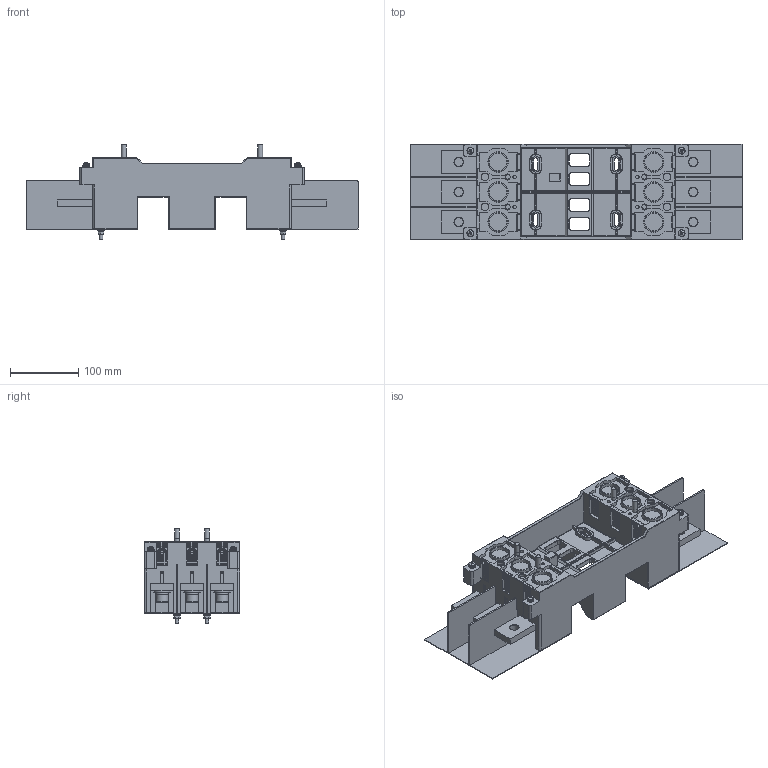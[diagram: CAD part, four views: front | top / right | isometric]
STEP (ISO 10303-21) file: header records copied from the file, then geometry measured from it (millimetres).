
FILE_DESCRIPTION(/* description */ (''),/* implementation_level */ '2;1');
FILE_NAME(/* name */ 'FCR1-CM5-630-2.stp',/* time_stamp */ '2023-03-24T15:10:57+08:00',/* author */ (''),/* organization */ (''),/* preprocessor_version */ 'ST-DEVELOPER v16.7',/* originating_system */ 'SIEMENS PLM Software NX 12.0',/* authorisation */ '');
FILE_SCHEMA (('AUTOMOTIVE_DESIGN { 1 0 10303 214 3 1 1 1 }'));
Products named in the file (1): _model1
Bounding box: 487 x 140 x 138.7 mm (x, y, z)
Volume: 1899803.9 mm3; surface area: 532322.8 mm2
Topology: 7 solids, 19 shells, 2939 faces, 7950 edges, 5048 vertices
Faces by surface type: plane 1781, cylinder 872, torus 130, cone 80, sphere 64, bspline 12
Full cylindrical faces by diameter (mm): 4.351 x4, 4.5 x4, 5 x20, 5.3 x4, 5.5 x4, 6 x8, 7 x4, 7.2 x4, 8.75 x4, 9 x4, 9.5 x4, 10 x4, 10.5 x4, 12 x6, 13 x18, 18 x6, 24 x6, 26 x6, 29 x6
Entity records: 91633 total; most frequent: CARTESIAN_POINT 18231, DIRECTION 15166, ORIENTED_EDGE 15108, EDGE_CURVE 7554, LINE 5374, VECTOR 5374, VERTEX_POINT 4918, AXIS2_PLACEMENT_3D 4896
